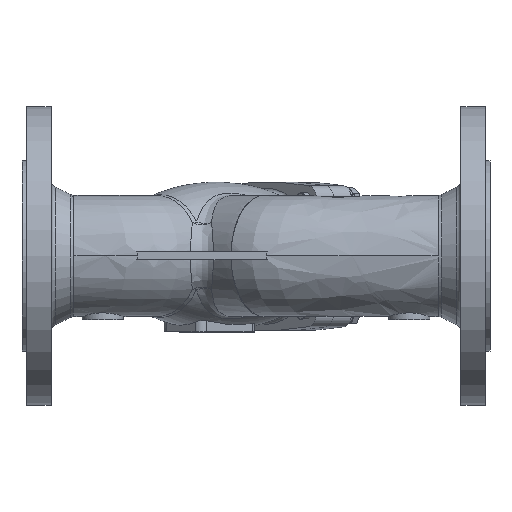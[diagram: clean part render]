
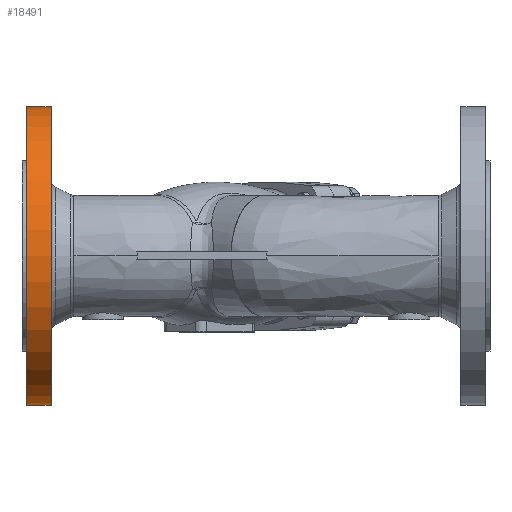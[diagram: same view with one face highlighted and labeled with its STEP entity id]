
A CAD part, top view. The second image highlights one B-rep face of the part: STEP entity #18491.
In plain terms, the highlighted conical face has half-angle 0 degrees and reference radius 92.5 mm.
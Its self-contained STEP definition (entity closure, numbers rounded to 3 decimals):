
#14637 = PLANE('',#14638);
#14638 = AXIS2_PLACEMENT_3D('',#14639,#14640,#14641);
#14639 = CARTESIAN_POINT('',(148.002,-0.844,
    183.479));
#14640 = DIRECTION('',(-1.,0.,0.));
#14641 = DIRECTION('',(0.,-1.,0.));
#17804 = PLANE('',#17805);
#17805 = AXIS2_PLACEMENT_3D('',#17806,#17807,#17808);
#17806 = CARTESIAN_POINT('',(163.002,-0.844,
    183.479));
#17807 = DIRECTION('',(1.,0.,0.));
#17808 = DIRECTION('',(0.,1.,0.));
#18142 = EDGE_CURVE('',#18143,#18145,#18147,.T.);
#18143 = VERTEX_POINT('',#18144);
#18144 = CARTESIAN_POINT('',(163.002,91.656,
    90.979));
#18145 = VERTEX_POINT('',#18146);
#18146 = CARTESIAN_POINT('',(163.002,-93.344,
    90.979));
#18147 = SURFACE_CURVE('',#18148,(#18153,#18160),.PCURVE_S1.);
#18148 = CIRCLE('',#18149,92.5);
#18149 = AXIS2_PLACEMENT_3D('',#18150,#18151,#18152);
#18150 = CARTESIAN_POINT('',(163.002,-0.844,
    90.979));
#18151 = DIRECTION('',(1.,0.,0.));
#18152 = DIRECTION('',(0.,1.,0.));
#18153 = PCURVE('',#17804,#18154);
#18154 = DEFINITIONAL_REPRESENTATION('',(#18155),#18159);
#18155 = CIRCLE('',#18156,92.5);
#18156 = AXIS2_PLACEMENT_2D('',#18157,#18158);
#18157 = CARTESIAN_POINT('',(0.,-92.5));
#18158 = DIRECTION('',(1.,0.));
#18159 = ( GEOMETRIC_REPRESENTATION_CONTEXT(2) 
PARAMETRIC_REPRESENTATION_CONTEXT() REPRESENTATION_CONTEXT('2D SPACE',''
  ) );
#18160 = PCURVE('',#18161,#18166);
#18161 = CONICAL_SURFACE('',#18162,92.5,0.);
#18162 = AXIS2_PLACEMENT_3D('',#18163,#18164,#18165);
#18163 = CARTESIAN_POINT('',(163.002,-0.844,
    90.979));
#18164 = DIRECTION('',(1.,0.,0.));
#18165 = DIRECTION('',(0.,1.,0.));
#18166 = DEFINITIONAL_REPRESENTATION('',(#18167),#18171);
#18167 = LINE('',#18168,#18169);
#18168 = CARTESIAN_POINT('',(0.,0.));
#18169 = VECTOR('',#18170,1.);
#18170 = DIRECTION('',(1.,0.));
#18171 = ( GEOMETRIC_REPRESENTATION_CONTEXT(2) 
PARAMETRIC_REPRESENTATION_CONTEXT() REPRESENTATION_CONTEXT('2D SPACE',''
  ) );
#18188 = CONICAL_SURFACE('',#18189,92.5,0.);
#18189 = AXIS2_PLACEMENT_3D('',#18190,#18191,#18192);
#18190 = CARTESIAN_POINT('',(163.002,-0.844,
    90.979));
#18191 = DIRECTION('',(1.,0.,0.));
#18192 = DIRECTION('',(0.,1.,0.));
#18491 = ADVANCED_FACE('',(#18492),#18161,.T.);
#18492 = FACE_BOUND('',#18493,.T.);
#18493 = EDGE_LOOP('',(#18494,#18524,#18545,#18546));
#18494 = ORIENTED_EDGE('',*,*,#18495,.T.);
#18495 = EDGE_CURVE('',#18496,#18498,#18500,.T.);
#18496 = VERTEX_POINT('',#18497);
#18497 = CARTESIAN_POINT('',(148.002,91.656,
    90.979));
#18498 = VERTEX_POINT('',#18499);
#18499 = CARTESIAN_POINT('',(148.002,-93.344,
    90.979));
#18500 = SURFACE_CURVE('',#18501,(#18506,#18513),.PCURVE_S1.);
#18501 = CIRCLE('',#18502,92.5);
#18502 = AXIS2_PLACEMENT_3D('',#18503,#18504,#18505);
#18503 = CARTESIAN_POINT('',(148.002,-0.844,
    90.979));
#18504 = DIRECTION('',(1.,0.,0.));
#18505 = DIRECTION('',(0.,1.,0.));
#18506 = PCURVE('',#18161,#18507);
#18507 = DEFINITIONAL_REPRESENTATION('',(#18508),#18512);
#18508 = LINE('',#18509,#18510);
#18509 = CARTESIAN_POINT('',(0.,-15.));
#18510 = VECTOR('',#18511,1.);
#18511 = DIRECTION('',(1.,0.));
#18512 = ( GEOMETRIC_REPRESENTATION_CONTEXT(2) 
PARAMETRIC_REPRESENTATION_CONTEXT() REPRESENTATION_CONTEXT('2D SPACE',''
  ) );
#18513 = PCURVE('',#14637,#18514);
#18514 = DEFINITIONAL_REPRESENTATION('',(#18515),#18523);
#18515 = ( BOUNDED_CURVE() B_SPLINE_CURVE(2,(#18516,#18517,#18518,#18519
    ,#18520,#18521,#18522),.UNSPECIFIED.,.T.,.F.) 
B_SPLINE_CURVE_WITH_KNOTS((1,2,2,2,2,1),(-2.094,0.,
    2.094,4.189,6.283,8.378),
.UNSPECIFIED.) CURVE() GEOMETRIC_REPRESENTATION_ITEM() 
RATIONAL_B_SPLINE_CURVE((1.,0.5,1.,0.5,1.,0.5,1.)) REPRESENTATION_ITEM(
  '') );
#18516 = CARTESIAN_POINT('',(-92.5,-92.5));
#18517 = CARTESIAN_POINT('',(-92.5,67.715));
#18518 = CARTESIAN_POINT('',(46.25,-12.393));
#18519 = CARTESIAN_POINT('',(185.,-92.5));
#18520 = CARTESIAN_POINT('',(46.25,-172.607));
#18521 = CARTESIAN_POINT('',(-92.5,-252.715));
#18522 = CARTESIAN_POINT('',(-92.5,-92.5));
#18523 = ( GEOMETRIC_REPRESENTATION_CONTEXT(2) 
PARAMETRIC_REPRESENTATION_CONTEXT() REPRESENTATION_CONTEXT('2D SPACE',''
  ) );
#18524 = ORIENTED_EDGE('',*,*,#18525,.T.);
#18525 = EDGE_CURVE('',#18498,#18145,#18526,.T.);
#18526 = SURFACE_CURVE('',#18527,(#18531,#18538),.PCURVE_S1.);
#18527 = LINE('',#18528,#18529);
#18528 = CARTESIAN_POINT('',(163.002,-93.344,
    90.979));
#18529 = VECTOR('',#18530,1.);
#18530 = DIRECTION('',(1.,0.,0.));
#18531 = PCURVE('',#18161,#18532);
#18532 = DEFINITIONAL_REPRESENTATION('',(#18533),#18537);
#18533 = LINE('',#18534,#18535);
#18534 = CARTESIAN_POINT('',(3.142,0.));
#18535 = VECTOR('',#18536,1.);
#18536 = DIRECTION('',(0.,1.));
#18537 = ( GEOMETRIC_REPRESENTATION_CONTEXT(2) 
PARAMETRIC_REPRESENTATION_CONTEXT() REPRESENTATION_CONTEXT('2D SPACE',''
  ) );
#18538 = PCURVE('',#18188,#18539);
#18539 = DEFINITIONAL_REPRESENTATION('',(#18540),#18544);
#18540 = LINE('',#18541,#18542);
#18541 = CARTESIAN_POINT('',(3.142,0.));
#18542 = VECTOR('',#18543,1.);
#18543 = DIRECTION('',(0.,1.));
#18544 = ( GEOMETRIC_REPRESENTATION_CONTEXT(2) 
PARAMETRIC_REPRESENTATION_CONTEXT() REPRESENTATION_CONTEXT('2D SPACE',''
  ) );
#18545 = ORIENTED_EDGE('',*,*,#18142,.F.);
#18546 = ORIENTED_EDGE('',*,*,#18547,.F.);
#18547 = EDGE_CURVE('',#18496,#18143,#18548,.T.);
#18548 = SURFACE_CURVE('',#18549,(#18553,#18560),.PCURVE_S1.);
#18549 = LINE('',#18550,#18551);
#18550 = CARTESIAN_POINT('',(163.002,91.656,
    90.979));
#18551 = VECTOR('',#18552,1.);
#18552 = DIRECTION('',(1.,0.,0.));
#18553 = PCURVE('',#18161,#18554);
#18554 = DEFINITIONAL_REPRESENTATION('',(#18555),#18559);
#18555 = LINE('',#18556,#18557);
#18556 = CARTESIAN_POINT('',(0.,0.));
#18557 = VECTOR('',#18558,1.);
#18558 = DIRECTION('',(0.,1.));
#18559 = ( GEOMETRIC_REPRESENTATION_CONTEXT(2) 
PARAMETRIC_REPRESENTATION_CONTEXT() REPRESENTATION_CONTEXT('2D SPACE',''
  ) );
#18560 = PCURVE('',#18188,#18561);
#18561 = DEFINITIONAL_REPRESENTATION('',(#18562),#18566);
#18562 = LINE('',#18563,#18564);
#18563 = CARTESIAN_POINT('',(6.283,0.));
#18564 = VECTOR('',#18565,1.);
#18565 = DIRECTION('',(0.,1.));
#18566 = ( GEOMETRIC_REPRESENTATION_CONTEXT(2) 
PARAMETRIC_REPRESENTATION_CONTEXT() REPRESENTATION_CONTEXT('2D SPACE',''
  ) );
